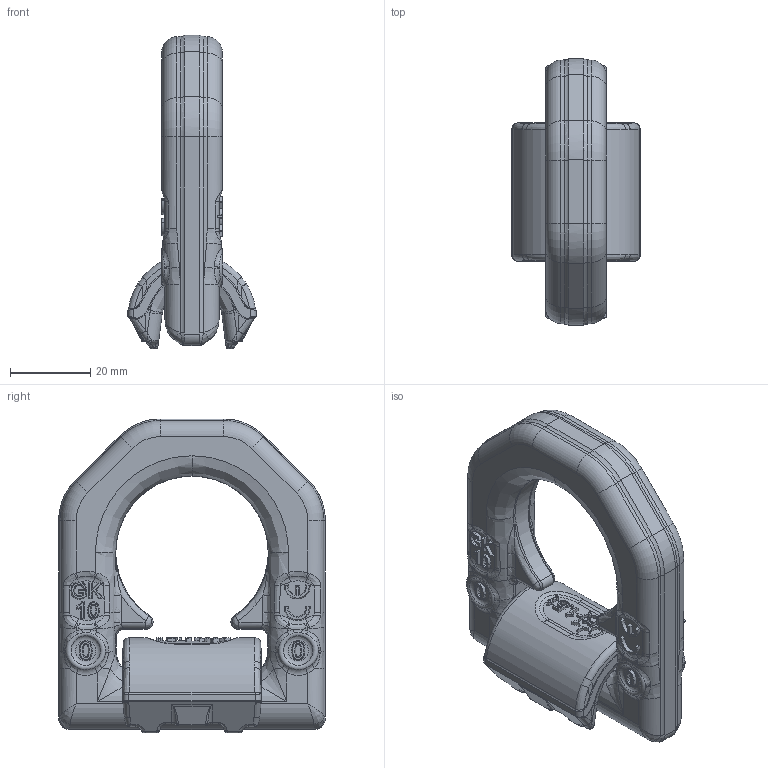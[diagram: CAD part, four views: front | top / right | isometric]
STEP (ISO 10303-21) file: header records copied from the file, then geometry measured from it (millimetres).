
FILE_DESCRIPTION((''),'2;1');
FILE_NAME('SFA-2605-0000_SFA-2606-0000_SFA-2638-0000_90°','2013-12-04T16:38:31',('Luca'),(''),'CADlook_v9.0','Cimatron E 8.0','');
FILE_SCHEMA(('AUTOMOTIVE_DESIGN { 1 2 10303 214 0 1 1 1 }'));
Length unit declared in the file: millimetre
Bounding box: 32 x 66.5 x 78.3 mm (x, y, z)
Volume: 51455.7 mm3; surface area: 15289.7 mm2
Topology: 2 solids, 2 shells, 1201 faces, 3051 edges, 1851 vertices
Faces by surface type: bspline 636, plane 275, cylinder 209, torus 50, cone 27, sphere 4
Full cylindrical faces by diameter (mm): 5.58 x1
Entity records: 89345 total; most frequent: CARTESIAN_POINT 54992, ORIENTED_EDGE 6026, DIRECTION 3932, EDGE_CURVE 3013, VERTEX_POINT 1851, AXIS2_PLACEMENT_3D 1514, EDGE_LOOP 1238, COLOUR_RGB 1203
